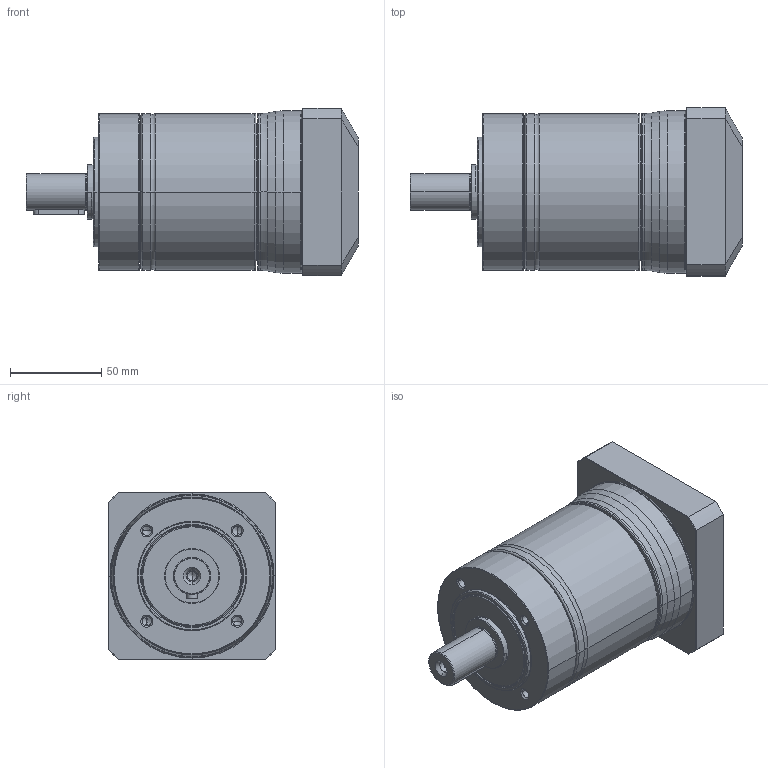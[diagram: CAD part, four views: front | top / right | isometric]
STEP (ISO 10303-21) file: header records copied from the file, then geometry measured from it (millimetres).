
FILE_DESCRIPTION((''),'2;1');
FILE_NAME('PG2-080_2ST_19-P0411400101_ASM','2016-04-13T',('d01943'),(''),'PRO/ENGINEER BY PARAMETRIC TECHNOLOGY CORPORATION, 2008410','PRO/ENGINEER BY PARAMETRIC TECHNOLOGY CORPORATION, 2008410','');
FILE_SCHEMA(('CONFIG_CONTROL_DESIGN'));
Length unit declared in the file: millimetre
Products named in the file (9): P1325310001; P0251300001; P1324300101; P0350301103; P0941301001; P0503400008; P0411400101; P1702500001; PG2-080_2ST_19-P0411400101_ASM
Assembly tree (8 placements, depth 2):
  PG2-080_2ST_19-P0411400101_ASM
    P1325310001
    P0251300001
    P1324300101
    P0350301103
    P0941301001
    P0503400008
    P0411400101
    P1702500001
Bounding box: 182 x 92 x 92 mm (x, y, z)
Volume: 630985.7 mm3; surface area: 148354.9 mm2
Topology: 8 solids, 9 shells, 475 faces, 1045 edges, 601 vertices
Faces by surface type: cone 142, cylinder 139, torus 96, plane 80, bspline 18
Entity records: 17800 total; most frequent: CARTESIAN_POINT 7123, DIRECTION 2433, ORIENTED_EDGE 2022, AXIS2_PLACEMENT_3D 1043, EDGE_CURVE 1011, VERTEX_POINT 601, CIRCLE 569, EDGE_LOOP 540
